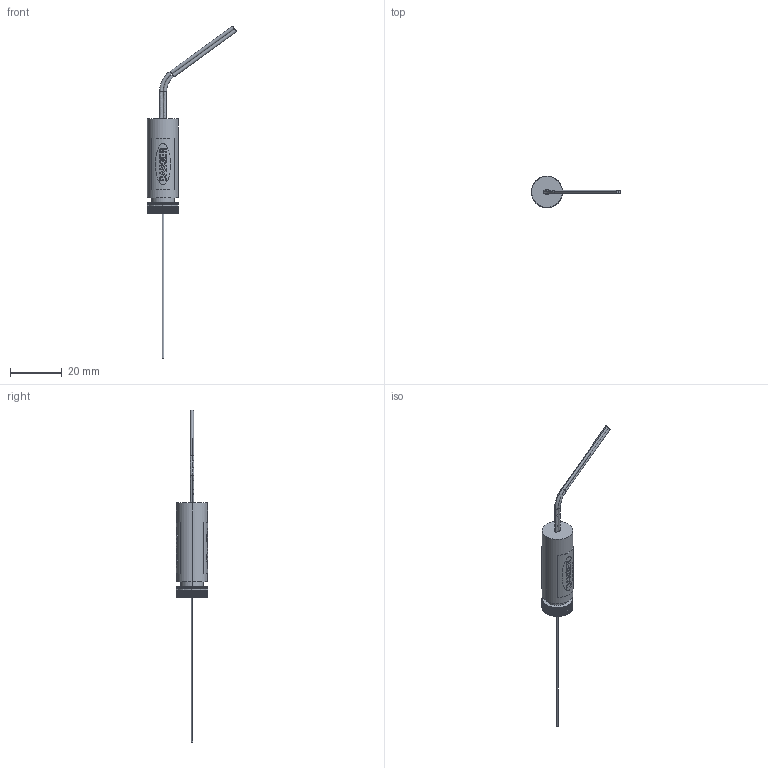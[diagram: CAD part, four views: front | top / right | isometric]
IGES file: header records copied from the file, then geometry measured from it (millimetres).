
Start section: START RECORD GO HERE.
Global section: file name: Laser_Modul_GALDOEP_650nm_3-5V_Point.igs; native system: IBM CATIA IGES - CATIA Version 5 Release 19 ; preprocessor: CATIA Version 5 Release 19 ; author: Administrator; organization: M0000815; date: 20230928.155602; units: millimetre
Bounding box: 34.46 x 12.2 x 128.45 mm (x, y, z)
Surface area: 4780.3 mm2 (no closed solid volume)
Topology: 0 solids, 0 shells, 750 faces, 4232 edges, 4232 vertices
Faces by surface type: plane 586, revolution 164
